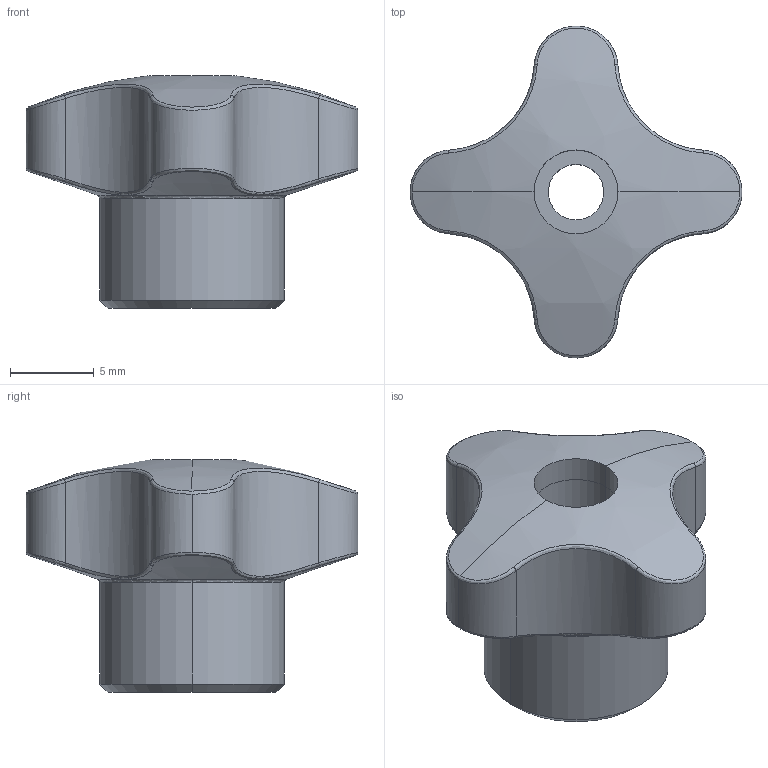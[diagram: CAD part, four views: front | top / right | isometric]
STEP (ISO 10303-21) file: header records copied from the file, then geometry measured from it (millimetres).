
FILE_DESCRIPTION (( 'STEP AP214' ), '1' );
FILE_NAME ('1121 20 401.STEP', '2010-11-26T15:36:24', ( 'Marc' ), ( '' ), 'SwSTEP 2.0', 'SolidWorks 2010', '' );
FILE_SCHEMA (( 'AUTOMOTIVE_DESIGN' ));
Length unit declared in the file: millimetre
Products named in the file (1): 1121 20 401
Bounding box: 19.77 x 19.77 x 13.87 mm (x, y, z)
Volume: 1616.8 mm3; surface area: 1640.2 mm2
Topology: 2 solids, 2 shells, 63 faces, 141 edges, 81 vertices
Faces by surface type: bspline 24, cylinder 21, cone 11, plane 3, torus 2, sphere 2
Entity records: 6474 total; most frequent: CARTESIAN_POINT 5087, ORIENTED_EDGE 282, DIRECTION 228, EDGE_CURVE 141, AXIS2_PLACEMENT_3D 100, VERTEX_POINT 81, EDGE_LOOP 66, ADVANCED_FACE 63
